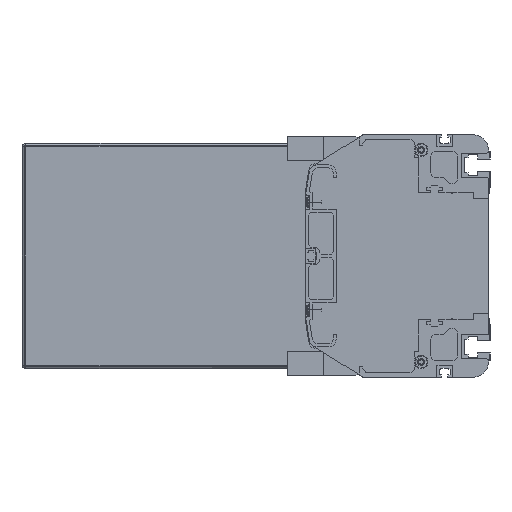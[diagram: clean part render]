
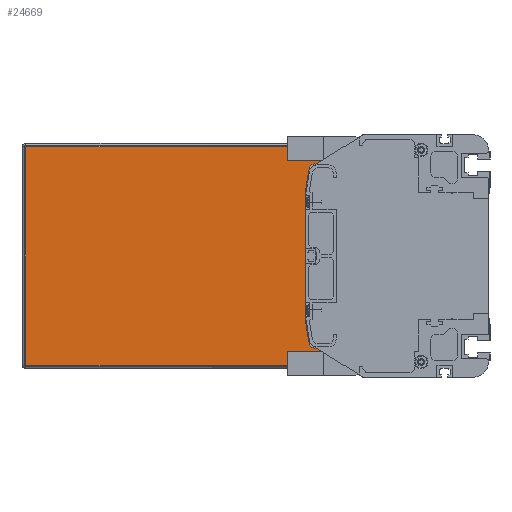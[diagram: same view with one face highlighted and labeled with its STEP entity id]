
A CAD part, left-side view. The second image highlights one B-rep face of the part: STEP entity #24669.
In plain terms, the highlighted planar face has unit normal (-1, 0, 0).
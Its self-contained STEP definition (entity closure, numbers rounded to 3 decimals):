
#1345=DIRECTION('',(0.,0.,-1.));
#1346=VECTOR('',#1345,11.);
#1347=CARTESIAN_POINT('',(2786.5,86.,-61.));
#1348=LINE('',#1347,#1346);
#1354=DIRECTION('',(0.,0.,-1.));
#1355=VECTOR('',#1354,11.);
#1356=CARTESIAN_POINT('',(2786.5,86.,72.));
#1357=LINE('',#1356,#1355);
#1367=DIRECTION('',(0.,-1.,0.));
#1368=VECTOR('',#1367,220.5);
#1369=CARTESIAN_POINT('',(2786.5,306.5,-72.));
#1370=LINE('',#1369,#1368);
#5128=DIRECTION('',(0.,1.,0.));
#5129=VECTOR('',#5128,28.728);
#5130=CARTESIAN_POINT('',(2786.5,86.,-61.));
#5131=LINE('',#5130,#5129);
#5136=CARTESIAN_POINT('',(2786.5,114.728,56.));
#5137=DIRECTION('',(-1.,0.,0.));
#5138=DIRECTION('',(0.,0.,1.));
#5139=AXIS2_PLACEMENT_3D('',#5136,#5137,#5138);
#5141=DIRECTION('',(0.,0.156,-0.988));
#5142=VECTOR('',#5141,14.963);
#5143=CARTESIAN_POINT('',(2786.5,119.666,56.78));
#5144=LINE('',#5143,#5142);
#5145=DIRECTION('',(0.,-0.156,-0.988));
#5146=VECTOR('',#5145,14.963);
#5147=CARTESIAN_POINT('',(2786.5,122.,-42.));
#5148=LINE('',#5147,#5146);
#5149=CARTESIAN_POINT('',(2786.5,114.728,-56.));
#5150=DIRECTION('',(-1.,0.,0.));
#5151=DIRECTION('',(0.,0.988,-0.156));
#5152=AXIS2_PLACEMENT_3D('',#5149,#5150,#5151);
#5158=DIRECTION('',(0.,0.,-1.));
#5159=VECTOR('',#5158,144.);
#5160=CARTESIAN_POINT('',(2786.5,306.5,72.));
#5161=LINE('',#5160,#5159);
#5327=DIRECTION('',(0.,1.,0.));
#5328=VECTOR('',#5327,220.5);
#5329=CARTESIAN_POINT('',(2786.5,86.,72.));
#5330=LINE('',#5329,#5328);
#5913=DIRECTION('',(0.,-1.,0.));
#5914=VECTOR('',#5913,28.728);
#5915=CARTESIAN_POINT('',(2786.5,114.728,61.));
#5916=LINE('',#5915,#5914);
#5929=DIRECTION('',(0.,0.,1.));
#5930=VECTOR('',#5929,84.);
#5931=CARTESIAN_POINT('',(2786.5,122.,-42.));
#5932=LINE('',#5931,#5930);
#16138=CARTESIAN_POINT('',(2786.5,306.5,-72.));
#16139=CARTESIAN_POINT('',(2786.5,86.,-72.));
#16140=VERTEX_POINT('',#16138);
#16141=VERTEX_POINT('',#16139);
#16142=CARTESIAN_POINT('',(2786.5,86.,-61.));
#16143=VERTEX_POINT('',#16142);
#16144=CARTESIAN_POINT('',(2786.5,114.728,-61.));
#16145=VERTEX_POINT('',#16144);
#16146=CARTESIAN_POINT('',(2786.5,119.666,-56.78));
#16147=VERTEX_POINT('',#16146);
#16148=CARTESIAN_POINT('',(2786.5,122.,-42.));
#16149=VERTEX_POINT('',#16148);
#16150=CARTESIAN_POINT('',(2786.5,122.,42.));
#16151=VERTEX_POINT('',#16150);
#16152=CARTESIAN_POINT('',(2786.5,119.666,56.78));
#16153=VERTEX_POINT('',#16152);
#16154=CARTESIAN_POINT('',(2786.5,114.728,61.));
#16155=VERTEX_POINT('',#16154);
#16156=CARTESIAN_POINT('',(2786.5,86.,61.));
#16157=VERTEX_POINT('',#16156);
#16158=CARTESIAN_POINT('',(2786.5,86.,72.));
#16159=VERTEX_POINT('',#16158);
#16160=CARTESIAN_POINT('',(2786.5,306.5,72.));
#16161=VERTEX_POINT('',#16160);
#24642=CARTESIAN_POINT('',(2786.5,196.25,0.));
#24643=DIRECTION('',(1.,0.,0.));
#24644=DIRECTION('',(0.,0.,-1.));
#24645=AXIS2_PLACEMENT_3D('',#24642,#24643,#24644);
#24646=PLANE('',#24645);
#24647=ORIENTED_EDGE('',*,*,#20879,.F.);
#24649=ORIENTED_EDGE('',*,*,#24648,.F.);
#24651=ORIENTED_EDGE('',*,*,#24650,.F.);
#24652=ORIENTED_EDGE('',*,*,#20861,.T.);
#24654=ORIENTED_EDGE('',*,*,#24653,.F.);
#24656=ORIENTED_EDGE('',*,*,#24655,.T.);
#24658=ORIENTED_EDGE('',*,*,#24657,.T.);
#24660=ORIENTED_EDGE('',*,*,#24659,.F.);
#24662=ORIENTED_EDGE('',*,*,#24661,.T.);
#24664=ORIENTED_EDGE('',*,*,#24663,.T.);
#24665=ORIENTED_EDGE('',*,*,#24634,.F.);
#24666=ORIENTED_EDGE('',*,*,#20829,.T.);
#24667=EDGE_LOOP('',(#24647,#24649,#24651,#24652,#24654,#24656,#24658,#24660,
#24662,#24664,#24665,#24666));
#24668=FACE_OUTER_BOUND('',#24667,.F.);
#24669=ADVANCED_FACE('',(#24668),#24646,.F.);
#5140=CIRCLE('',#5139,5.);
#5153=CIRCLE('',#5152,5.);
#20829=EDGE_CURVE('',#16143,#16141,#1348,.T.);
#20861=EDGE_CURVE('',#16159,#16157,#1357,.T.);
#20879=EDGE_CURVE('',#16140,#16141,#1370,.T.);
#24634=EDGE_CURVE('',#16143,#16145,#5131,.T.);
#24648=EDGE_CURVE('',#16161,#16140,#5161,.T.);
#24650=EDGE_CURVE('',#16159,#16161,#5330,.T.);
#24653=EDGE_CURVE('',#16155,#16157,#5916,.T.);
#24655=EDGE_CURVE('',#16155,#16153,#5140,.T.);
#24657=EDGE_CURVE('',#16153,#16151,#5144,.T.);
#24659=EDGE_CURVE('',#16149,#16151,#5932,.T.);
#24661=EDGE_CURVE('',#16149,#16147,#5148,.T.);
#24663=EDGE_CURVE('',#16147,#16145,#5153,.T.);
